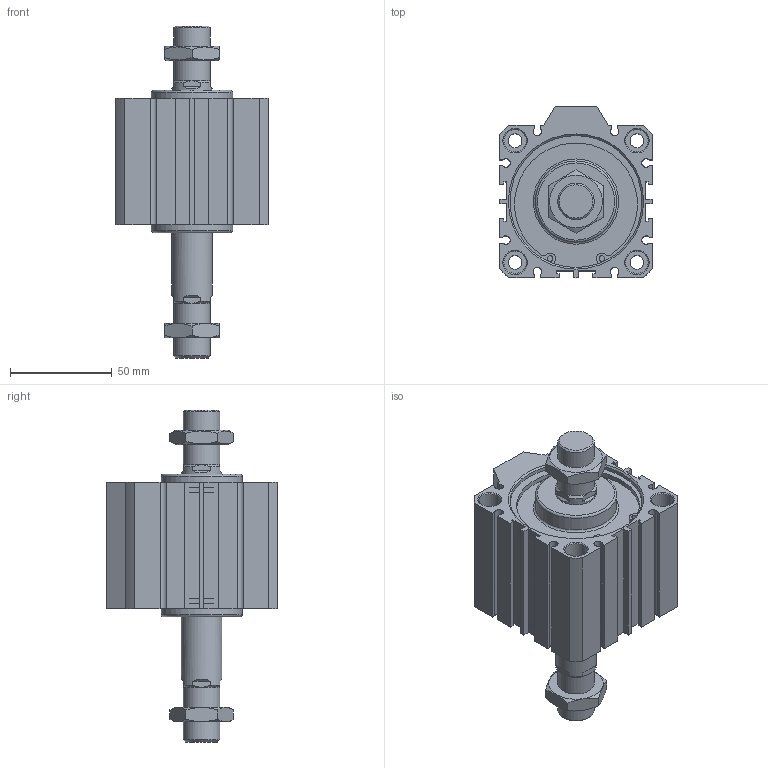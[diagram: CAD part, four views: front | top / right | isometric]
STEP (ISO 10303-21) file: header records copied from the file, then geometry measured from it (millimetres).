
FILE_DESCRIPTION((''),'2;1');
FILE_NAME('I:\3D電子目錄\氣缸\JDD\JDD-B\JDD63-B\JDD63x30-B.stp','2007-02-13T15:45:10',('662F206'),(''),'Autodesk Inventor 10','Autodesk Inventor 10','');
FILE_SCHEMA(('AUTOMOTIVE_DESIGN { 1 0 10303 214 1 1 1 1 }'));
Length unit declared in the file: millimetre
Products named in the file (3): JDD63-B; R 形環 65
Assembly tree (3 placements, depth 2):
  JDD63-B
    JDD63-B
    R 形環 65  x2
Bounding box: 75 x 84.5 x 163.5 mm (x, y, z)
Volume: 351763.3 mm3; surface area: 62789.8 mm2
Topology: 3 solids, 3 shells, 230 faces, 558 edges, 360 vertices
Faces by surface type: plane 132, cylinder 56, cone 38, bspline 2, torus 2
Full cylindrical faces by diameter (mm): 2.7 x4, 3 x2, 6.8 x4, 11 x8, 18 x4, 20 x2, 40 x2, 65 x4, 68 x2
Entity records: 6147 total; most frequent: CARTESIAN_POINT 1216, DIRECTION 1012, ORIENTED_EDGE 936, EDGE_CURVE 468, AXIS2_PLACEMENT_3D 374, VERTEX_POINT 332, EDGE_LOOP 308, VECTOR 264
